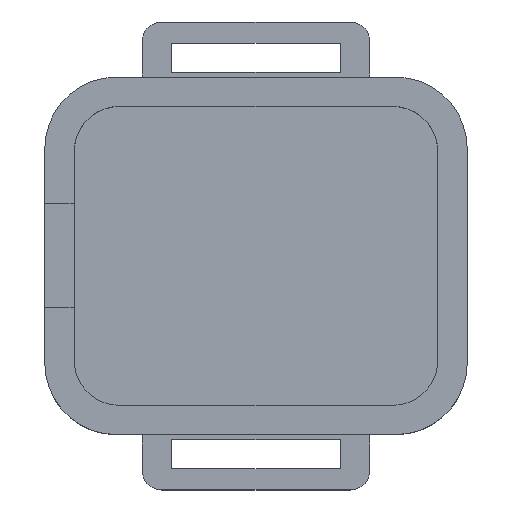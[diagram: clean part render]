
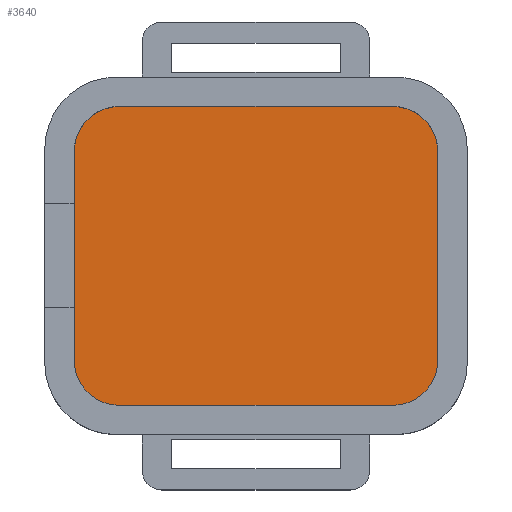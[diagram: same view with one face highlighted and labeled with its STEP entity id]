
A CAD part, top view. The second image highlights one B-rep face of the part: STEP entity #3640.
In plain terms, the highlighted planar face has unit normal (0, 0, 1).
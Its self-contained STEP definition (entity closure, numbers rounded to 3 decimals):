
#537 = PLANE('',#538);
#538 = AXIS2_PLACEMENT_3D('',#539,#540,#541);
#539 = CARTESIAN_POINT('',(-5.6,-4.6,1.2));
#540 = DIRECTION('',(1.,0.,0.));
#541 = DIRECTION('',(0.,0.,1.));
#565 = CYLINDRICAL_SURFACE('',#566,1.4);
#566 = AXIS2_PLACEMENT_3D('',#567,#568,#569);
#567 = CARTESIAN_POINT('',(-4.2,3.2,1.2));
#568 = DIRECTION('',(0.,0.,1.));
#569 = DIRECTION('',(-1.,-0.,0.));
#592 = PLANE('',#593);
#593 = AXIS2_PLACEMENT_3D('',#594,#595,#596);
#594 = CARTESIAN_POINT('',(-5.6,4.6,1.2));
#595 = DIRECTION('',(0.,1.,0.));
#596 = DIRECTION('',(0.,0.,1.));
#620 = CYLINDRICAL_SURFACE('',#621,1.4);
#621 = AXIS2_PLACEMENT_3D('',#622,#623,#624);
#622 = CARTESIAN_POINT('',(4.2,3.2,1.2));
#623 = DIRECTION('',(0.,0.,1.));
#624 = DIRECTION('',(1.,0.,-0.));
#647 = PLANE('',#648);
#648 = AXIS2_PLACEMENT_3D('',#649,#650,#651);
#649 = CARTESIAN_POINT('',(5.6,-4.6,1.2));
#650 = DIRECTION('',(1.,0.,0.));
#651 = DIRECTION('',(0.,0.,1.));
#675 = CYLINDRICAL_SURFACE('',#676,1.4);
#676 = AXIS2_PLACEMENT_3D('',#677,#678,#679);
#677 = CARTESIAN_POINT('',(4.2,-3.2,1.2));
#678 = DIRECTION('',(0.,0.,1.));
#679 = DIRECTION('',(1.,0.,-0.));
#702 = PLANE('',#703);
#703 = AXIS2_PLACEMENT_3D('',#704,#705,#706);
#704 = CARTESIAN_POINT('',(-5.6,-4.6,1.2));
#705 = DIRECTION('',(0.,1.,0.));
#706 = DIRECTION('',(0.,0.,1.));
#730 = CYLINDRICAL_SURFACE('',#731,1.4);
#731 = AXIS2_PLACEMENT_3D('',#732,#733,#734);
#732 = CARTESIAN_POINT('',(-4.2,-3.2,1.2));
#733 = DIRECTION('',(0.,0.,1.));
#734 = DIRECTION('',(-1.,-0.,0.));
#1924 = VERTEX_POINT('',#1925);
#1925 = CARTESIAN_POINT('',(-5.6,-3.2,1.2));
#1946 = EDGE_CURVE('',#1924,#1947,#1949,.T.);
#1947 = VERTEX_POINT('',#1948);
#1948 = CARTESIAN_POINT('',(-5.6,3.2,1.2));
#1949 = SURFACE_CURVE('',#1950,(#1954,#1961),.PCURVE_S1.);
#1950 = LINE('',#1951,#1952);
#1951 = CARTESIAN_POINT('',(-5.6,-4.6,1.2));
#1952 = VECTOR('',#1953,1.);
#1953 = DIRECTION('',(0.,1.,0.));
#1954 = PCURVE('',#537,#1955);
#1955 = DEFINITIONAL_REPRESENTATION('',(#1956),#1960);
#1956 = LINE('',#1957,#1958);
#1957 = CARTESIAN_POINT('',(0.,0.));
#1958 = VECTOR('',#1959,1.);
#1959 = DIRECTION('',(0.,-1.));
#1960 = ( GEOMETRIC_REPRESENTATION_CONTEXT(2) 
PARAMETRIC_REPRESENTATION_CONTEXT() REPRESENTATION_CONTEXT('2D SPACE',''
  ) );
#1961 = PCURVE('',#1962,#1967);
#1962 = PLANE('',#1963);
#1963 = AXIS2_PLACEMENT_3D('',#1964,#1965,#1966);
#1964 = CARTESIAN_POINT('',(-5.6,-4.6,1.2));
#1965 = DIRECTION('',(0.,0.,1.));
#1966 = DIRECTION('',(1.,0.,0.));
#1967 = DEFINITIONAL_REPRESENTATION('',(#1968),#1972);
#1968 = LINE('',#1969,#1970);
#1969 = CARTESIAN_POINT('',(0.,0.));
#1970 = VECTOR('',#1971,1.);
#1971 = DIRECTION('',(0.,1.));
#1972 = ( GEOMETRIC_REPRESENTATION_CONTEXT(2) 
PARAMETRIC_REPRESENTATION_CONTEXT() REPRESENTATION_CONTEXT('2D SPACE',''
  ) );
#2003 = EDGE_CURVE('',#1924,#2004,#2006,.T.);
#2004 = VERTEX_POINT('',#2005);
#2005 = CARTESIAN_POINT('',(-4.2,-4.6,1.2));
#2006 = SURFACE_CURVE('',#2007,(#2012,#2019),.PCURVE_S1.);
#2007 = CIRCLE('',#2008,1.4);
#2008 = AXIS2_PLACEMENT_3D('',#2009,#2010,#2011);
#2009 = CARTESIAN_POINT('',(-4.2,-3.2,1.2));
#2010 = DIRECTION('',(0.,0.,1.));
#2011 = DIRECTION('',(0.,-1.,0.));
#2012 = PCURVE('',#730,#2013);
#2013 = DEFINITIONAL_REPRESENTATION('',(#2014),#2018);
#2014 = LINE('',#2015,#2016);
#2015 = CARTESIAN_POINT('',(-4.712,0.));
#2016 = VECTOR('',#2017,1.);
#2017 = DIRECTION('',(1.,0.));
#2018 = ( GEOMETRIC_REPRESENTATION_CONTEXT(2) 
PARAMETRIC_REPRESENTATION_CONTEXT() REPRESENTATION_CONTEXT('2D SPACE',''
  ) );
#2019 = PCURVE('',#1962,#2020);
#2020 = DEFINITIONAL_REPRESENTATION('',(#2021),#2025);
#2021 = CIRCLE('',#2022,1.4);
#2022 = AXIS2_PLACEMENT_2D('',#2023,#2024);
#2023 = CARTESIAN_POINT('',(1.4,1.4));
#2024 = DIRECTION('',(0.,-1.));
#2025 = ( GEOMETRIC_REPRESENTATION_CONTEXT(2) 
PARAMETRIC_REPRESENTATION_CONTEXT() REPRESENTATION_CONTEXT('2D SPACE',''
  ) );
#2052 = EDGE_CURVE('',#2004,#2053,#2055,.T.);
#2053 = VERTEX_POINT('',#2054);
#2054 = CARTESIAN_POINT('',(4.2,-4.6,1.2));
#2055 = SURFACE_CURVE('',#2056,(#2060,#2067),.PCURVE_S1.);
#2056 = LINE('',#2057,#2058);
#2057 = CARTESIAN_POINT('',(-5.6,-4.6,1.2));
#2058 = VECTOR('',#2059,1.);
#2059 = DIRECTION('',(1.,0.,0.));
#2060 = PCURVE('',#702,#2061);
#2061 = DEFINITIONAL_REPRESENTATION('',(#2062),#2066);
#2062 = LINE('',#2063,#2064);
#2063 = CARTESIAN_POINT('',(0.,0.));
#2064 = VECTOR('',#2065,1.);
#2065 = DIRECTION('',(0.,1.));
#2066 = ( GEOMETRIC_REPRESENTATION_CONTEXT(2) 
PARAMETRIC_REPRESENTATION_CONTEXT() REPRESENTATION_CONTEXT('2D SPACE',''
  ) );
#2067 = PCURVE('',#1962,#2068);
#2068 = DEFINITIONAL_REPRESENTATION('',(#2069),#2073);
#2069 = LINE('',#2070,#2071);
#2070 = CARTESIAN_POINT('',(0.,0.));
#2071 = VECTOR('',#2072,1.);
#2072 = DIRECTION('',(1.,0.));
#2073 = ( GEOMETRIC_REPRESENTATION_CONTEXT(2) 
PARAMETRIC_REPRESENTATION_CONTEXT() REPRESENTATION_CONTEXT('2D SPACE',''
  ) );
#2102 = VERTEX_POINT('',#2103);
#2103 = CARTESIAN_POINT('',(5.6,-3.2,1.2));
#2124 = EDGE_CURVE('',#2102,#2053,#2125,.T.);
#2125 = SURFACE_CURVE('',#2126,(#2131,#2138),.PCURVE_S1.);
#2126 = CIRCLE('',#2127,1.4);
#2127 = AXIS2_PLACEMENT_3D('',#2128,#2129,#2130);
#2128 = CARTESIAN_POINT('',(4.2,-3.2,1.2));
#2129 = DIRECTION('',(-0.,-0.,-1.));
#2130 = DIRECTION('',(0.,-1.,0.));
#2131 = PCURVE('',#675,#2132);
#2132 = DEFINITIONAL_REPRESENTATION('',(#2133),#2137);
#2133 = LINE('',#2134,#2135);
#2134 = CARTESIAN_POINT('',(4.712,-0.));
#2135 = VECTOR('',#2136,1.);
#2136 = DIRECTION('',(-1.,0.));
#2137 = ( GEOMETRIC_REPRESENTATION_CONTEXT(2) 
PARAMETRIC_REPRESENTATION_CONTEXT() REPRESENTATION_CONTEXT('2D SPACE',''
  ) );
#2138 = PCURVE('',#1962,#2139);
#2139 = DEFINITIONAL_REPRESENTATION('',(#2140),#2148);
#2140 = ( BOUNDED_CURVE() B_SPLINE_CURVE(2,(#2141,#2142,#2143,#2144,
#2145,#2146,#2147),.UNSPECIFIED.,.T.,.F.) B_SPLINE_CURVE_WITH_KNOTS((1,2
    ,2,2,2,1),(-2.094,0.,2.094,4.189,
6.283,8.378),.UNSPECIFIED.) CURVE() 
GEOMETRIC_REPRESENTATION_ITEM() RATIONAL_B_SPLINE_CURVE((1.,0.5,1.,0.5,
1.,0.5,1.)) REPRESENTATION_ITEM('') );
#2141 = CARTESIAN_POINT('',(9.8,0.));
#2142 = CARTESIAN_POINT('',(7.375,0.));
#2143 = CARTESIAN_POINT('',(8.588,2.1));
#2144 = CARTESIAN_POINT('',(9.8,4.2));
#2145 = CARTESIAN_POINT('',(11.012,2.1));
#2146 = CARTESIAN_POINT('',(12.225,0.));
#2147 = CARTESIAN_POINT('',(9.8,0.));
#2148 = ( GEOMETRIC_REPRESENTATION_CONTEXT(2) 
PARAMETRIC_REPRESENTATION_CONTEXT() REPRESENTATION_CONTEXT('2D SPACE',''
  ) );
#2157 = EDGE_CURVE('',#2102,#2158,#2160,.T.);
#2158 = VERTEX_POINT('',#2159);
#2159 = CARTESIAN_POINT('',(5.6,3.2,1.2));
#2160 = SURFACE_CURVE('',#2161,(#2165,#2172),.PCURVE_S1.);
#2161 = LINE('',#2162,#2163);
#2162 = CARTESIAN_POINT('',(5.6,-4.6,1.2));
#2163 = VECTOR('',#2164,1.);
#2164 = DIRECTION('',(0.,1.,0.));
#2165 = PCURVE('',#647,#2166);
#2166 = DEFINITIONAL_REPRESENTATION('',(#2167),#2171);
#2167 = LINE('',#2168,#2169);
#2168 = CARTESIAN_POINT('',(0.,0.));
#2169 = VECTOR('',#2170,1.);
#2170 = DIRECTION('',(0.,-1.));
#2171 = ( GEOMETRIC_REPRESENTATION_CONTEXT(2) 
PARAMETRIC_REPRESENTATION_CONTEXT() REPRESENTATION_CONTEXT('2D SPACE',''
  ) );
#2172 = PCURVE('',#1962,#2173);
#2173 = DEFINITIONAL_REPRESENTATION('',(#2174),#2178);
#2174 = LINE('',#2175,#2176);
#2175 = CARTESIAN_POINT('',(11.2,0.));
#2176 = VECTOR('',#2177,1.);
#2177 = DIRECTION('',(0.,1.));
#2178 = ( GEOMETRIC_REPRESENTATION_CONTEXT(2) 
PARAMETRIC_REPRESENTATION_CONTEXT() REPRESENTATION_CONTEXT('2D SPACE',''
  ) );
#2205 = EDGE_CURVE('',#2158,#2206,#2208,.T.);
#2206 = VERTEX_POINT('',#2207);
#2207 = CARTESIAN_POINT('',(4.2,4.6,1.2));
#2208 = SURFACE_CURVE('',#2209,(#2214,#2221),.PCURVE_S1.);
#2209 = CIRCLE('',#2210,1.4);
#2210 = AXIS2_PLACEMENT_3D('',#2211,#2212,#2213);
#2211 = CARTESIAN_POINT('',(4.2,3.2,1.2));
#2212 = DIRECTION('',(0.,0.,1.));
#2213 = DIRECTION('',(0.,-1.,0.));
#2214 = PCURVE('',#620,#2215);
#2215 = DEFINITIONAL_REPRESENTATION('',(#2216),#2220);
#2216 = LINE('',#2217,#2218);
#2217 = CARTESIAN_POINT('',(-1.571,0.));
#2218 = VECTOR('',#2219,1.);
#2219 = DIRECTION('',(1.,0.));
#2220 = ( GEOMETRIC_REPRESENTATION_CONTEXT(2) 
PARAMETRIC_REPRESENTATION_CONTEXT() REPRESENTATION_CONTEXT('2D SPACE',''
  ) );
#2221 = PCURVE('',#1962,#2222);
#2222 = DEFINITIONAL_REPRESENTATION('',(#2223),#2227);
#2223 = CIRCLE('',#2224,1.4);
#2224 = AXIS2_PLACEMENT_2D('',#2225,#2226);
#2225 = CARTESIAN_POINT('',(9.8,7.8));
#2226 = DIRECTION('',(0.,-1.));
#2227 = ( GEOMETRIC_REPRESENTATION_CONTEXT(2) 
PARAMETRIC_REPRESENTATION_CONTEXT() REPRESENTATION_CONTEXT('2D SPACE',''
  ) );
#2254 = EDGE_CURVE('',#2255,#2206,#2257,.T.);
#2255 = VERTEX_POINT('',#2256);
#2256 = CARTESIAN_POINT('',(-4.2,4.6,1.2));
#2257 = SURFACE_CURVE('',#2258,(#2262,#2269),.PCURVE_S1.);
#2258 = LINE('',#2259,#2260);
#2259 = CARTESIAN_POINT('',(-5.6,4.6,1.2));
#2260 = VECTOR('',#2261,1.);
#2261 = DIRECTION('',(1.,0.,0.));
#2262 = PCURVE('',#592,#2263);
#2263 = DEFINITIONAL_REPRESENTATION('',(#2264),#2268);
#2264 = LINE('',#2265,#2266);
#2265 = CARTESIAN_POINT('',(0.,0.));
#2266 = VECTOR('',#2267,1.);
#2267 = DIRECTION('',(0.,1.));
#2268 = ( GEOMETRIC_REPRESENTATION_CONTEXT(2) 
PARAMETRIC_REPRESENTATION_CONTEXT() REPRESENTATION_CONTEXT('2D SPACE',''
  ) );
#2269 = PCURVE('',#1962,#2270);
#2270 = DEFINITIONAL_REPRESENTATION('',(#2271),#2275);
#2271 = LINE('',#2272,#2273);
#2272 = CARTESIAN_POINT('',(0.,9.2));
#2273 = VECTOR('',#2274,1.);
#2274 = DIRECTION('',(1.,0.));
#2275 = ( GEOMETRIC_REPRESENTATION_CONTEXT(2) 
PARAMETRIC_REPRESENTATION_CONTEXT() REPRESENTATION_CONTEXT('2D SPACE',''
  ) );
#2304 = EDGE_CURVE('',#1947,#2255,#2305,.T.);
#2305 = SURFACE_CURVE('',#2306,(#2311,#2318),.PCURVE_S1.);
#2306 = CIRCLE('',#2307,1.4);
#2307 = AXIS2_PLACEMENT_3D('',#2308,#2309,#2310);
#2308 = CARTESIAN_POINT('',(-4.2,3.2,1.2));
#2309 = DIRECTION('',(-0.,-0.,-1.));
#2310 = DIRECTION('',(0.,-1.,0.));
#2311 = PCURVE('',#565,#2312);
#2312 = DEFINITIONAL_REPRESENTATION('',(#2313),#2317);
#2313 = LINE('',#2314,#2315);
#2314 = CARTESIAN_POINT('',(1.571,-0.));
#2315 = VECTOR('',#2316,1.);
#2316 = DIRECTION('',(-1.,0.));
#2317 = ( GEOMETRIC_REPRESENTATION_CONTEXT(2) 
PARAMETRIC_REPRESENTATION_CONTEXT() REPRESENTATION_CONTEXT('2D SPACE',''
  ) );
#2318 = PCURVE('',#1962,#2319);
#2319 = DEFINITIONAL_REPRESENTATION('',(#2320),#2328);
#2320 = ( BOUNDED_CURVE() B_SPLINE_CURVE(2,(#2321,#2322,#2323,#2324,
#2325,#2326,#2327),.UNSPECIFIED.,.T.,.F.) B_SPLINE_CURVE_WITH_KNOTS((1,2
    ,2,2,2,1),(-2.094,0.,2.094,4.189,
6.283,8.378),.UNSPECIFIED.) CURVE() 
GEOMETRIC_REPRESENTATION_ITEM() RATIONAL_B_SPLINE_CURVE((1.,0.5,1.,0.5,
1.,0.5,1.)) REPRESENTATION_ITEM('') );
#2321 = CARTESIAN_POINT('',(1.4,6.4));
#2322 = CARTESIAN_POINT('',(-1.025,6.4));
#2323 = CARTESIAN_POINT('',(0.188,8.5));
#2324 = CARTESIAN_POINT('',(1.4,10.6));
#2325 = CARTESIAN_POINT('',(2.612,8.5));
#2326 = CARTESIAN_POINT('',(3.825,6.4));
#2327 = CARTESIAN_POINT('',(1.4,6.4));
#2328 = ( GEOMETRIC_REPRESENTATION_CONTEXT(2) 
PARAMETRIC_REPRESENTATION_CONTEXT() REPRESENTATION_CONTEXT('2D SPACE',''
  ) );
#3640 = ADVANCED_FACE('',(#3641),#1962,.T.);
#3641 = FACE_BOUND('',#3642,.T.);
#3642 = EDGE_LOOP('',(#3643,#3644,#3645,#3646,#3647,#3648,#3649,#3650));
#3643 = ORIENTED_EDGE('',*,*,#1946,.F.);
#3644 = ORIENTED_EDGE('',*,*,#2003,.T.);
#3645 = ORIENTED_EDGE('',*,*,#2052,.T.);
#3646 = ORIENTED_EDGE('',*,*,#2124,.F.);
#3647 = ORIENTED_EDGE('',*,*,#2157,.T.);
#3648 = ORIENTED_EDGE('',*,*,#2205,.T.);
#3649 = ORIENTED_EDGE('',*,*,#2254,.F.);
#3650 = ORIENTED_EDGE('',*,*,#2304,.F.);
